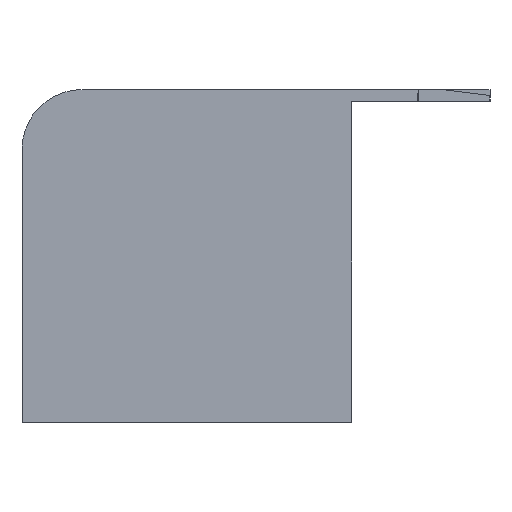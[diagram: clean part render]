
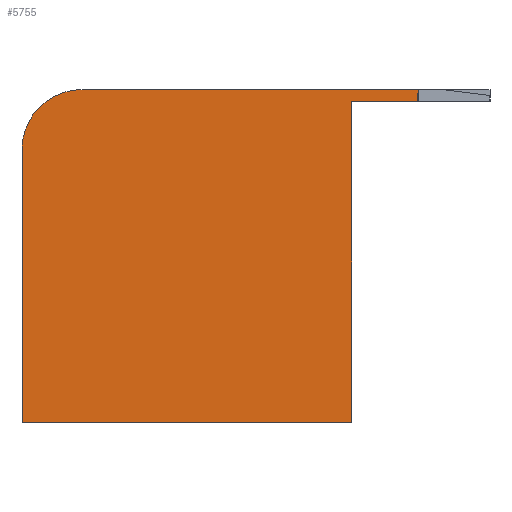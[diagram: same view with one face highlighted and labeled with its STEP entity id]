
A CAD part, left-side view. The second image highlights one B-rep face of the part: STEP entity #5755.
In plain terms, the highlighted planar face has unit normal (-1, 0, 0.003) as drawn and (1, 0.003, 0) by its records, which use the part's own axes.
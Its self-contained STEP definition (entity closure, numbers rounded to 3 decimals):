
#55 = DIRECTION ( 'NONE',  ( 0.003, -1., 0. ) ) ;
#156 = CARTESIAN_POINT ( 'NONE',  ( 52.947, 45.864, 0. ) ) ;
#159 = VECTOR ( 'NONE', #4391, 1000. ) ;
#356 = ORIENTED_EDGE ( 'NONE', *, *, #3351, .F. ) ;
#435 = EDGE_CURVE ( 'NONE', #5712, #7120, #1749, .T. ) ;
#645 = ORIENTED_EDGE ( 'NONE', *, *, #7069, .T. ) ;
#806 = ORIENTED_EDGE ( 'NONE', *, *, #435, .T. ) ;
#816 = CARTESIAN_POINT ( 'NONE',  ( 52.92, 55.944, -4.175 ) ) ;
#968 = CARTESIAN_POINT ( 'NONE',  ( 52.92, 55.944, 0. ) ) ;
#998 = VERTEX_POINT ( 'NONE', #1668 ) ;
#1038 = LINE ( 'NONE', #968, #159 ) ;
#1046 = CARTESIAN_POINT ( 'NONE',  ( 52.92, 55.944, -10.08 ) ) ;
#1395 = CARTESIAN_POINT ( 'NONE',  ( 53.071, 0., -55.44 ) ) ;
#1398 = VERTEX_POINT ( 'NONE', #7278 ) ;
#1431 = CARTESIAN_POINT ( 'NONE',  ( 52.931, 51.769, 0. ) ) ;
#1504 = DIRECTION ( 'NONE',  ( 1., 0.003, 0. ) ) ;
#1668 = CARTESIAN_POINT ( 'NONE',  ( 52.925, 53.928, -66.528 ) ) ;
#1731 = ORIENTED_EDGE ( 'NONE', *, *, #2031, .T. ) ;
#1749 = LINE ( 'NONE', #1046, #8717 ) ;
#1780 = CARTESIAN_POINT ( 'NONE',  ( 52.92, 55.944, -10.08 ) ) ;
#2031 = EDGE_CURVE ( 'NONE', #3990, #1398, #4146, .T. ) ;
#2132 = LINE ( 'NONE', #6560, #6446 ) ;
#2348 = VECTOR ( 'NONE', #4133, 1000. ) ;
#3162 = CARTESIAN_POINT ( 'NONE',  ( 52.947, 45.864, 0. ) ) ;
#3171 = DIRECTION ( 'NONE',  ( 0., 0., 1. ) ) ;
#3206 = EDGE_CURVE ( 'NONE', #4265, #3990, #4568, .T. ) ;
#3285 = AXIS2_PLACEMENT_3D ( 'NONE', #5566, #1504, #7547 ) ;
#3351 = EDGE_CURVE ( 'NONE', #998, #1398, #2132, .T. ) ;
#3475 = DIRECTION ( 'NONE',  ( -0.003, 1., 0. ) ) ;
#3670 =( BOUNDED_CURVE ( )  B_SPLINE_CURVE ( 3, ( #7562, #816, #1431, #156 ),
 .UNSPECIFIED., .F., .F. ) 
 B_SPLINE_CURVE_WITH_KNOTS ( ( 4, 4 ),
 ( 0., 1.571 ),
 .UNSPECIFIED. ) 
 CURVE ( )  GEOMETRIC_REPRESENTATION_ITEM ( )  RATIONAL_B_SPLINE_CURVE ( ( 1., 0.805, 0.805, 1. ) ) 
 REPRESENTATION_ITEM ( '' )  );
#3723 = ORIENTED_EDGE ( 'NONE', *, *, #6876, .F. ) ;
#3923 = VECTOR ( 'NONE', #55, 1000. ) ;
#3990 = VERTEX_POINT ( 'NONE', #1395 ) ;
#4078 = EDGE_LOOP ( 'NONE', ( #645, #4930, #1731, #356, #3723, #806, #8226 ) ) ;
#4133 = DIRECTION ( 'NONE',  ( 0., 0., -1. ) ) ;
#4146 = LINE ( 'NONE', #6849, #6891 ) ;
#4265 = VERTEX_POINT ( 'NONE', #6880 ) ;
#4391 = DIRECTION ( 'NONE',  ( 0.003, -1., 0. ) ) ;
#4568 = LINE ( 'NONE', #8191, #2348 ) ;
#4832 = PLANE ( 'NONE',  #3285 ) ;
#4930 = ORIENTED_EDGE ( 'NONE', *, *, #3206, .T. ) ;
#5566 = CARTESIAN_POINT ( 'NONE',  ( 52.92, 55.944, -10.08 ) ) ;
#5712 = VERTEX_POINT ( 'NONE', #8109 ) ;
#5755 = ADVANCED_FACE ( 'NONE', ( #6350 ), #4832, .T. ) ;
#6350 = FACE_OUTER_BOUND ( 'NONE', #4078, .T. ) ;
#6394 = EDGE_CURVE ( 'NONE', #7120, #8476, #3670, .T. ) ;
#6446 = VECTOR ( 'NONE', #7838, 1000. ) ;
#6560 = CARTESIAN_POINT ( 'NONE',  ( 52.925, 53.928, -55.44 ) ) ;
#6849 = CARTESIAN_POINT ( 'NONE',  ( 52.92, 55.944, -55.44 ) ) ;
#6876 = EDGE_CURVE ( 'NONE', #5712, #998, #8670, .T. ) ;
#6880 = CARTESIAN_POINT ( 'NONE',  ( 53.071, 0., 0. ) ) ;
#6891 = VECTOR ( 'NONE', #3475, 1000. ) ;
#6922 = CARTESIAN_POINT ( 'NONE',  ( 52.92, 55.944, -66.528 ) ) ;
#7069 = EDGE_CURVE ( 'NONE', #8476, #4265, #1038, .T. ) ;
#7120 = VERTEX_POINT ( 'NONE', #1780 ) ;
#7278 = CARTESIAN_POINT ( 'NONE',  ( 52.925, 53.928, -55.44 ) ) ;
#7547 = DIRECTION ( 'NONE',  ( -0.003, 1., 0. ) ) ;
#7562 = CARTESIAN_POINT ( 'NONE',  ( 52.92, 55.944, -10.08 ) ) ;
#7838 = DIRECTION ( 'NONE',  ( 0., 0., 1. ) ) ;
#8109 = CARTESIAN_POINT ( 'NONE',  ( 52.92, 55.944, -66.528 ) ) ;
#8191 = CARTESIAN_POINT ( 'NONE',  ( 53.071, 0., -10.08 ) ) ;
#8226 = ORIENTED_EDGE ( 'NONE', *, *, #6394, .T. ) ;
#8476 = VERTEX_POINT ( 'NONE', #3162 ) ;
#8670 = LINE ( 'NONE', #6922, #3923 ) ;
#8717 = VECTOR ( 'NONE', #3171, 1000. ) ;
